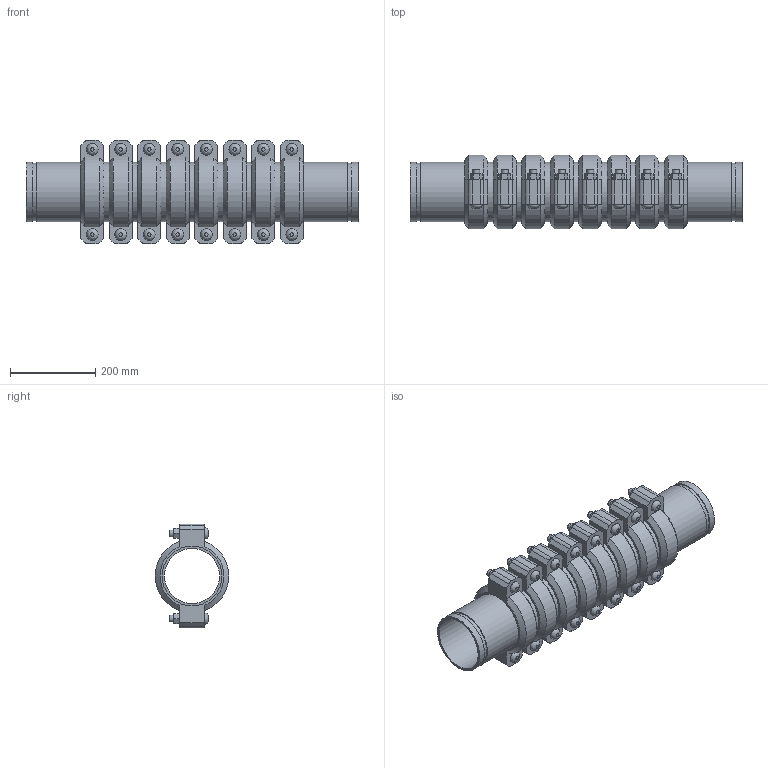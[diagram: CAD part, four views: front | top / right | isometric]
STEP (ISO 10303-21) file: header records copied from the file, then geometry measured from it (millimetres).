
FILE_DESCRIPTION(/* description */ ('VIC EXPANSION JOINT 8 COUPLINGS EXPANDED STYLE 155 (OGS)','CAx-IF Rec.Pracs.---Representation and Presentation of Product Manufacturing Information (PMI)---4.0---2014-10-13'),/* implementation_level */ '2;1');
FILE_NAME(/* name */ 'C:\Users\kkamble\AppData\Roaming\Autodesk\ApplicationPlugins\Victaulic.Temp\A413\Victaulic_IPS_Expansion Joint_Expanded_8 Couplings_Style 155 (OGS)_05.0 (139.7) (125).stp',/* time_stamp */ '2021-06-27T00:09:21+02:00',/* author */ ('kkamble'),/* organization */ ('Victaulic'),/* preprocessor_version */ 'ST-DEVELOPER v17.2',/* originating_system */ 'Autodesk Inventor 2019',/* authorisation */ '');
FILE_SCHEMA (('AP242_MANAGED_MODEL_BASED_3D_ENGINEERING_MIM_LF { 1 0 10303 442 1 1 4 }'));
Length unit declared in the file: inch
Products named in the file (4): 155-05.0 (139.7); Nipple-05.0 (139.7); Nipple-05.0 (139.7)_1; 075-05.0 (139.7)
Assembly tree (17 placements, depth 2):
  155-05.0 (139.7)
    Nipple-05.0 (139.7)  x2
    Nipple-05.0 (139.7)_1  x7
    075-05.0 (139.7)  x8
Bounding box: 778 x 172.14 x 243.59 mm (x, y, z)
Volume: 6562386.1 mm3; surface area: 1491708.6 mm2
Topology: 17 solids, 33 shells, 564 faces, 1334 edges, 936 vertices
Faces by surface type: plane 342, cylinder 174, cone 32, bspline 16
Full cylindrical faces by diameter (mm): 15.875 x32, 17.424 x16, 129.388 x9, 133.35 x8, 135.484 x18, 139.7 x43
Entity records: 2849 total; most frequent: CARTESIAN_POINT 501, DIRECTION 477, ORIENTED_EDGE 386, EDGE_CURVE 193, AXIS2_PLACEMENT_3D 192, VERTEX_POINT 138, EDGE_LOOP 107, LINE 93
